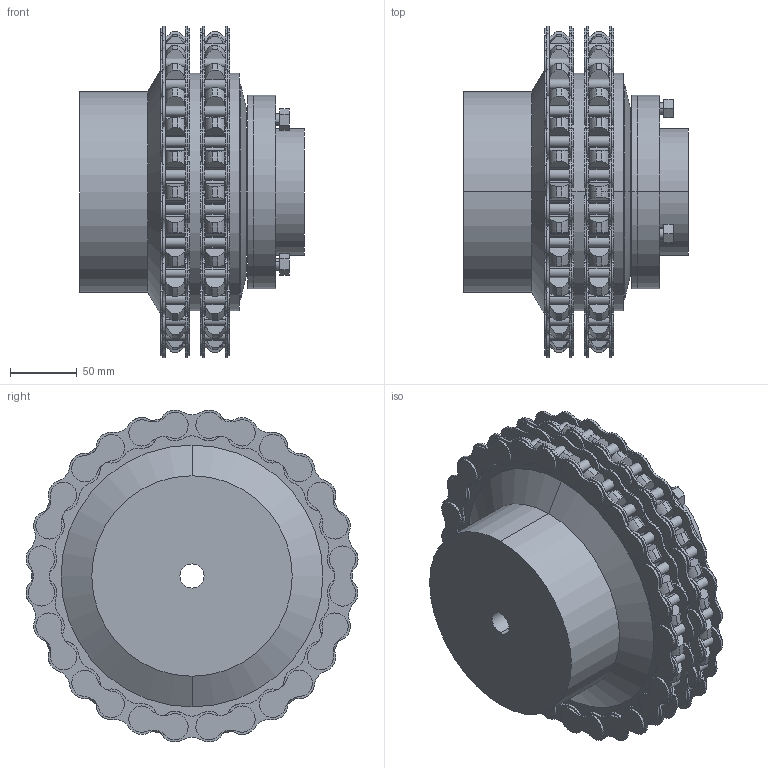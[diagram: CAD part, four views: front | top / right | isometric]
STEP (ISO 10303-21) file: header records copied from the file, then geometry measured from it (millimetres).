
FILE_DESCRIPTION (( 'STEP AP203' ), '1' );
FILE_NAME ('SS700-1C.STEP', '2009-09-30T17:57:06', ( 'USER' ), ( 'HOME' ), 'SwSTEP 2.0', 'SolidWorks 2007', '' );
FILE_SCHEMA (( 'CONFIG_CONTROL_DESIGN' ));
Products named in the file (1): SS700-1C
Bounding box: 168 x 248.39 x 248.39 mm (x, y, z)
Volume: 3925117.2 mm3; surface area: 834602.4 mm2
Topology: 79 solids, 79 shells, 2381 faces, 6003 edges, 3926 vertices
Faces by surface type: cylinder 1603, plane 654, torus 116, cone 8
Entity records: 75236 total; most frequent: CARTESIAN_POINT 14551, DIRECTION 14321, ORIENTED_EDGE 12006, AXIS2_PLACEMENT_3D 6160, EDGE_CURVE 6003, VERTEX_POINT 3926, CIRCLE 3778, EDGE_LOOP 2633
